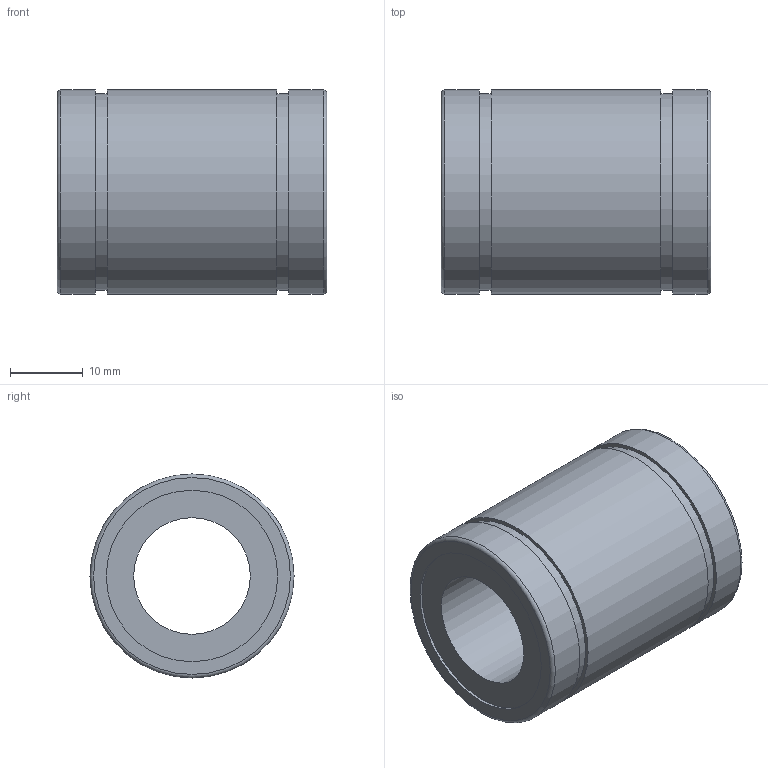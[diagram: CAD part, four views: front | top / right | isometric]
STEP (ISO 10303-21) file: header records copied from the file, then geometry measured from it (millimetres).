
FILE_DESCRIPTION(/* description */ ('STEP AP214'),/* implementation_level */ '2;1');
FILE_NAME(/* name */ '\\JOINapp01\Profiles\martins\Desktop\rolamento\LM16UU.step',/* time_stamp */ '2018-02-15T08:33:52-02:00',/* author */ ('martins'),/* organization */ ('TraceParts S.A.'),/* preprocessor_version */ 'ST-DEVELOPER v16.1',/* originating_system */ 'Autodesk Inventor 2016',/* authorisation */ ' ');
FILE_SCHEMA (('AUTOMOTIVE_DESIGN { 1 0 10303 214 3 1 1 }'));
Length unit declared in the file: millimetre
Products named in the file (2): lm16uu; Assembly10
Assembly tree (1 placements, depth 2):
  Assembly10
    lm16uu
Bounding box: 37 x 28 x 28 mm (x, y, z)
Volume: 15021.8 mm3; surface area: 6097.9 mm2
Topology: 1 solids, 1 shells, 192 faces, 511 edges, 341 vertices
Faces by surface type: plane 130, bspline 52, cylinder 8, torus 2
Full cylindrical faces by diameter (mm): 16 x1, 23.52 x2, 27 x2, 28 x3
Entity records: 6362 total; most frequent: CARTESIAN_POINT 1863, ORIENTED_EDGE 996, DIRECTION 698, EDGE_CURVE 498, LINE 376, VECTOR 376, VERTEX_POINT 338, EDGE_LOOP 224
